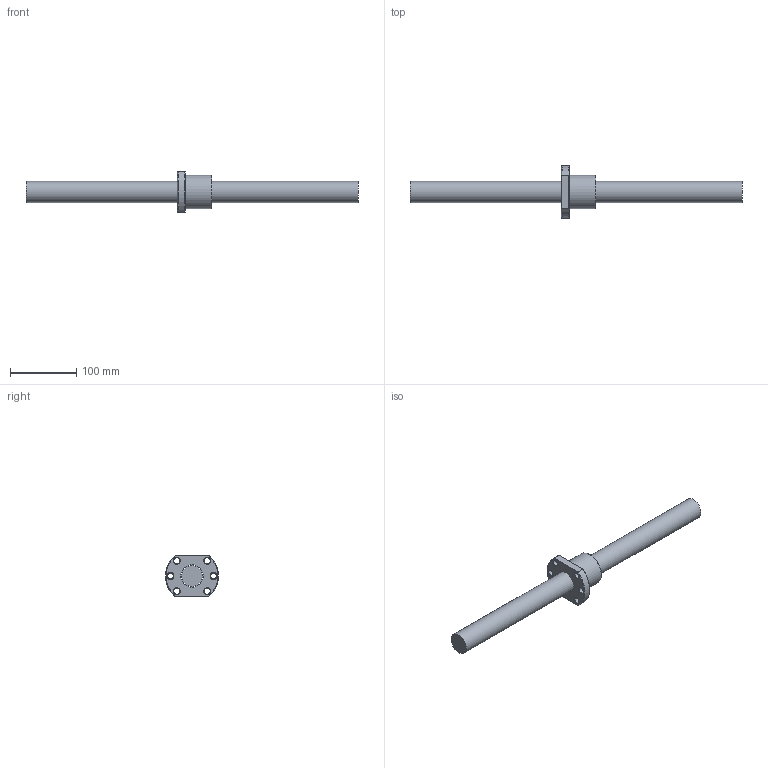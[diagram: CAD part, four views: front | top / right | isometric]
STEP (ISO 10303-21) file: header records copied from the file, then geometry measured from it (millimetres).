
FILE_DESCRIPTION (( 'STEP AP203' ), '1' );
FILE_NAME ('SFNU03205D-4.step', '2024-05-14T06:34:33', ( '' ), ( '' ), 'SwSTEP 2.0', 'SolidWorks 2022', '' );
FILE_SCHEMA (( 'CONFIG_CONTROL_DESIGN' ));
Length unit declared in the file: millimetre
Products named in the file (1): SFNU03205D-4
Bounding box: 500 x 79.74 x 62 mm (x, y, z)
Volume: 480754.4 mm3; surface area: 74813.2 mm2
Topology: 2 solids, 2 shells, 54 faces, 139 edges, 90 vertices
Faces by surface type: cylinder 19, cone 13, plane 12, bspline 5, torus 5
Full cylindrical faces by diameter (mm): 4 x1, 5 x6, 9 x6, 32 x1, 34.1 x1, 50 x1
Entity records: 3137 total; most frequent: CARTESIAN_POINT 2101, DIRECTION 186, ORIENTED_EDGE 166, EDGE_LOOP 90, AXIS2_PLACEMENT_3D 85, EDGE_CURVE 83, VERTEX_POINT 67, FACE_OUTER_BOUND 60
